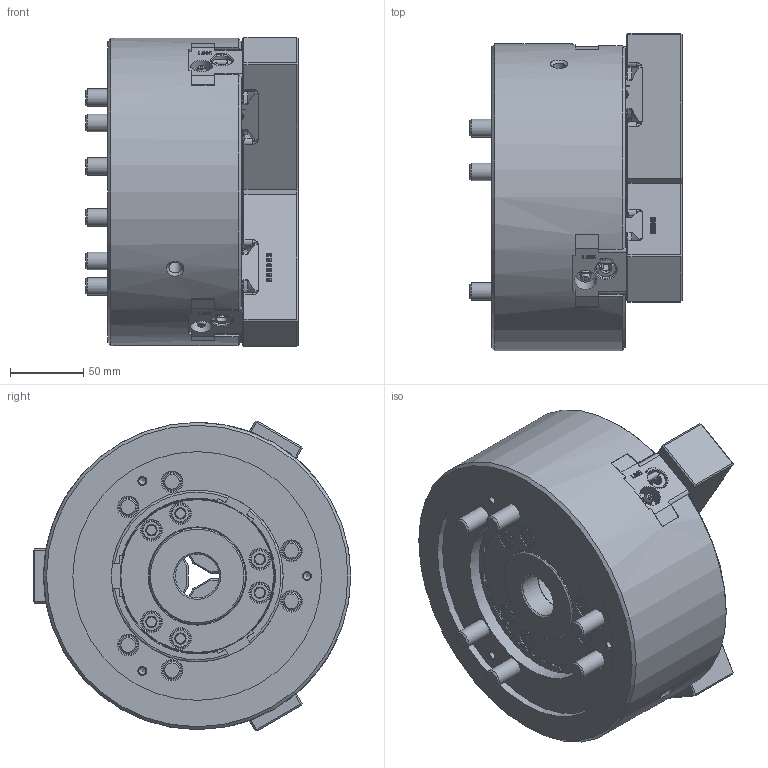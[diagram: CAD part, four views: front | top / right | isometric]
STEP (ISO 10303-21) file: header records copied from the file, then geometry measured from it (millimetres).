
FILE_DESCRIPTION (( 'STEP AP214' ), '1' );
FILE_NAME ('DT1_QB308_OUTSIDE_VIEW_HCL.STEP', '2024-05-16T00:28:40', ( '' ), ( '' ), 'SwSTEP 2.0', 'SolidWorks 2022', '' );
FILE_SCHEMA (( 'AUTOMOTIVE_DESIGN' ));
Length unit declared in the file: millimetre
Products named in the file (7): DT1_QB308_OUTSIDE_VIEW_HCL; Part1^DT1_QB308_ﾃﾞﾌｫﾙﾄ; DT1_QB308_M5x10^DT1_QB308_ﾃﾞﾌｫﾙﾄ; DT1_QB308_SOFTJAW^DT1_QB308_ﾃﾞﾌｫﾙﾄ; DT1_QB308_COVER^DT1_QB308_ﾃﾞﾌｫﾙﾄ; DT1_QB308_DRAWNUT^DT1_QB308_ﾃﾞﾌｫﾙﾄ; DT1_QB308_M12x90^DT1_QB308_ﾃﾞﾌｫﾙﾄ
Assembly tree (15 placements, depth 2):
  DT1_QB308_OUTSIDE_VIEW_HCL
    DT1_QB308_SOFTJAW^DT1_QB308_ﾃﾞﾌｫﾙﾄ  x3
    DT1_QB308_DRAWNUT^DT1_QB308_ﾃﾞﾌｫﾙﾄ
    DT1_QB308_COVER^DT1_QB308_ﾃﾞﾌｫﾙﾄ
    DT1_QB308_M5x10^DT1_QB308_ﾃﾞﾌｫﾙﾄ  x3
    DT1_QB308_M12x90^DT1_QB308_ﾃﾞﾌｫﾙﾄ  x6
    Part1^DT1_QB308_ﾃﾞﾌｫﾙﾄ
Bounding box: 145 x 217.15 x 211.75 mm (x, y, z)
Volume: 3199905.5 mm3; surface area: 312204.3 mm2
Topology: 15 solids, 15 shells, 2407 faces, 6247 edges, 4056 vertices
Faces by surface type: plane 1218, bspline 646, cone 252, cylinder 252, torus 36, sphere 3
Full cylindrical faces by diameter (mm): 2 x3, 4 x3, 4.2 x12, 5 x6, 5.5 x3, 6 x6, 8 x6, 8.5 x2, 9.5 x3, 10 x3, 12 x6, 13 x6, 13.5 x6, 13.8 x3, 14 x9, 14.2 x3, 15 x3, 18 x6, 18.27 x6, 20 x6, 30 x1, 52 x1, 56 x2, 61 x1, 64.8 x2, 66 x2, 72 x2, 105.2 x1, 117.5 x1, 170 x1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
Entity records: 72096 total; most frequent: CARTESIAN_POINT 31587, ORIENTED_EDGE 8926, DIRECTION 6712, EDGE_CURVE 4463, VERTEX_POINT 3010, VECTOR 2390, LINE 2390, EDGE_LOOP 2203
